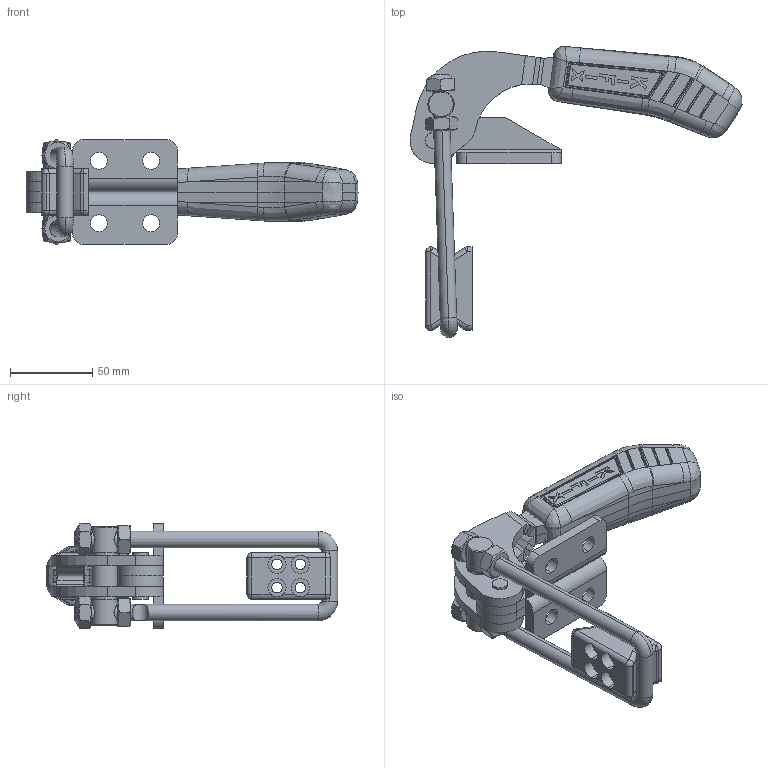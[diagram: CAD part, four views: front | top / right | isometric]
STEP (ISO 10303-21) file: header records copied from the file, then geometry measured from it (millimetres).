
FILE_DESCRIPTION (( 'STEP AP203' ), '1' );
FILE_NAME ('KF-473 D.STEP', '2014-08-22T17:32:31', ( 'Ricardo' ), ( '' ), 'SwSTEP 2.0', 'SolidWorks 2013', '' );
FILE_SCHEMA (( 'CONFIG_CONTROL_DESIGN' ));
Length unit declared in the file: millimetre
Products named in the file (12): 07.60003; 01.10147_Direita; KF-473 D; 01.10147_Esquerda; 16.20091; 03.20063; 11.50019; 11.50003; 15.20020; 02.12101_Direita; 16.20095; 02.12101_Esquerda
Assembly tree (13 placements, depth 2):
  KF-473 D
    02.12101_Direita
    02.12101_Esquerda
    01.10147_Direita
    01.10147_Esquerda
    16.20091
    03.20063
    11.50019  x2
    11.50003  x2
    15.20020
    16.20095
    07.60003
Bounding box: 202.05 x 177.22 x 64.13 mm (x, y, z)
Volume: 273471.1 mm3; surface area: 91476 mm2
Topology: 13 solids, 13 shells, 707 faces, 1783 edges, 1107 vertices
Faces by surface type: plane 238, cylinder 215, bspline 147, sphere 58, cone 36, torus 13
Entity records: 25552 total; most frequent: CARTESIAN_POINT 9573, ORIENTED_EDGE 3354, DIRECTION 2650, EDGE_CURVE 1677, VERTEX_POINT 1047, AXIS2_PLACEMENT_3D 1046, EDGE_LOOP 730, ADVANCED_FACE 673
